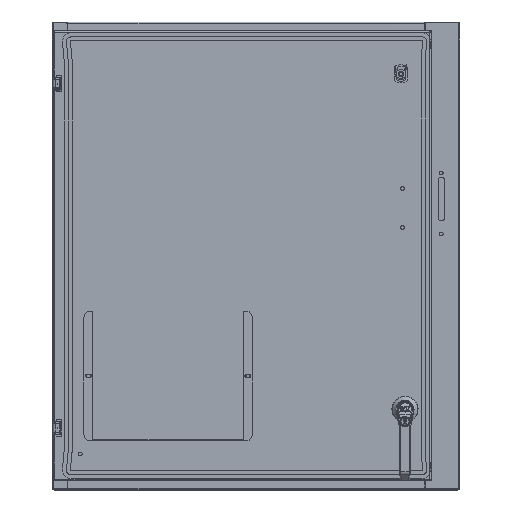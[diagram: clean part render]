
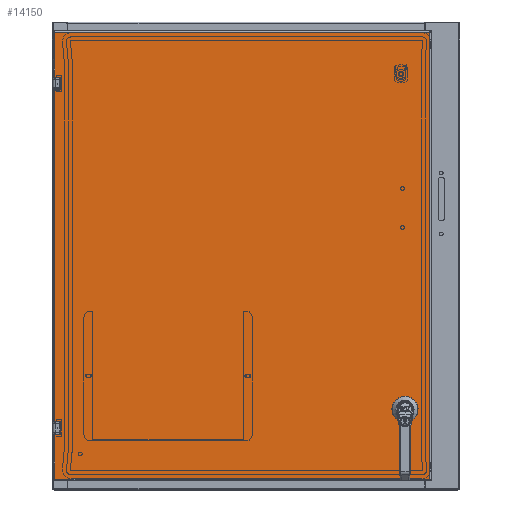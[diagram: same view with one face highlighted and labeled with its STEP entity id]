
A CAD part, top view. The second image highlights one B-rep face of the part: STEP entity #14150.
In plain terms, the highlighted planar face has unit normal (0, 0, 1).
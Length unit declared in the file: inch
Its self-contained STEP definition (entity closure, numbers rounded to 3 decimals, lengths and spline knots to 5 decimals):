
#10773=CARTESIAN_POINT('',(12.525,-12.915,0.));
#10774=DIRECTION('',(0.,0.,1.));
#10775=DIRECTION('',(-1.,0.,0.));
#10776=AXIS2_PLACEMENT_3D('',#10773,#10774,#10775);
#10781=CARTESIAN_POINT('',(12.525,-12.915,0.));
#10782=DIRECTION('',(0.,0.,1.));
#10783=DIRECTION('',(1.,0.,0.));
#10784=AXIS2_PLACEMENT_3D('',#10781,#10782,#10783);
#10789=DIRECTION('',(1.,0.,0.));
#10790=VECTOR('',#10789,0.39715);
#10791=CARTESIAN_POINT('',(12.32642,-11.429,0.));
#10792=LINE('',#10791,#10790);
#10796=CARTESIAN_POINT('',(12.525,-11.825,0.));
#10797=DIRECTION('',(0.,0.,1.));
#10798=DIRECTION('',(-0.448,0.894,0.));
#10799=AXIS2_PLACEMENT_3D('',#10796,#10797,#10798);
#10804=DIRECTION('',(0.,1.,0.));
#10805=VECTOR('',#10804,0.39715);
#10806=CARTESIAN_POINT('',(12.129,-12.02358,0.));
#10807=LINE('',#10806,#10805);
#10811=CARTESIAN_POINT('',(12.525,-11.825,0.));
#10812=DIRECTION('',(0.,0.,1.));
#10813=DIRECTION('',(-0.894,-0.448,0.));
#10814=AXIS2_PLACEMENT_3D('',#10811,#10812,#10813);
#10819=DIRECTION('',(-1.,0.,0.));
#10820=VECTOR('',#10819,0.39715);
#10821=CARTESIAN_POINT('',(12.72358,-12.221,0.));
#10822=LINE('',#10821,#10820);
#10826=CARTESIAN_POINT('',(12.525,-11.825,0.));
#10827=DIRECTION('',(0.,0.,1.));
#10828=DIRECTION('',(0.448,-0.894,0.));
#10829=AXIS2_PLACEMENT_3D('',#10826,#10827,#10828);
#10834=DIRECTION('',(0.,-1.,0.));
#10835=VECTOR('',#10834,0.39715);
#10836=CARTESIAN_POINT('',(12.921,-11.62642,0.));
#10837=LINE('',#10836,#10835);
#10841=CARTESIAN_POINT('',(12.525,-11.825,0.));
#10842=DIRECTION('',(0.,0.,1.));
#10843=DIRECTION('',(0.894,0.448,0.));
#10844=AXIS2_PLACEMENT_3D('',#10841,#10842,#10843);
#10849=DIRECTION('',(1.,0.,0.));
#10850=VECTOR('',#10849,0.3629);
#10851=CARTESIAN_POINT('',(-14.4205,-13.595,0.));
#10852=LINE('',#10851,#10850);
#10856=DIRECTION('',(0.,1.,0.));
#10857=VECTOR('',#10856,0.63);
#10858=CARTESIAN_POINT('',(-14.0276,-13.565,0.));
#10859=LINE('',#10858,#10857);
#10863=DIRECTION('',(1.,0.,0.));
#10864=VECTOR('',#10863,0.3629);
#10865=CARTESIAN_POINT('',(-14.4205,-12.905,0.));
#10866=LINE('',#10865,#10864);
#10870=DIRECTION('',(1.,0.,0.));
#10871=VECTOR('',#10870,0.3629);
#10872=CARTESIAN_POINT('',(-14.4205,12.905,0.));
#10873=LINE('',#10872,#10871);
#10877=DIRECTION('',(0.,1.,0.));
#10878=VECTOR('',#10877,0.63);
#10879=CARTESIAN_POINT('',(-14.0276,12.935,0.));
#10880=LINE('',#10879,#10878);
#10884=DIRECTION('',(1.,0.,0.));
#10885=VECTOR('',#10884,0.3629);
#10886=CARTESIAN_POINT('',(-14.4205,13.595,0.));
#10887=LINE('',#10886,#10885);
#11452=DIRECTION('',(0.,-1.,0.));
#11453=VECTOR('',#11452,34.416);
#11454=CARTESIAN_POINT('',(14.4205,17.208,0.));
#11455=LINE('',#11454,#11453);
#11524=DIRECTION('',(1.,0.,0.));
#11525=VECTOR('',#11524,28.841);
#11526=CARTESIAN_POINT('',(-14.4205,17.208,0.));
#11527=LINE('',#11526,#11525);
#11652=DIRECTION('',(0.,1.,0.));
#11653=VECTOR('',#11652,25.81);
#11654=CARTESIAN_POINT('',(-14.4205,-12.905,0.));
#11655=LINE('',#11654,#11653);
#11659=CARTESIAN_POINT('',(-14.4205,17.208,0.));
#11696=DIRECTION('',(0.,1.,0.));
#11697=VECTOR('',#11696,3.613);
#11698=CARTESIAN_POINT('',(-14.4205,13.595,0.));
#11699=LINE('',#11698,#11697);
#11770=DIRECTION('',(0.,1.,0.));
#11771=VECTOR('',#11770,3.613);
#11772=CARTESIAN_POINT('',(-14.4205,-17.208,0.));
#11773=LINE('',#11772,#11771);
#11791=CARTESIAN_POINT('',(-14.0576,-12.935,0.));
#11792=DIRECTION('',(0.,0.,-1.));
#11793=DIRECTION('',(0.,1.,0.));
#11794=AXIS2_PLACEMENT_3D('',#11791,#11792,#11793);
#11821=CARTESIAN_POINT('',(-14.0576,-13.565,0.));
#11822=DIRECTION('',(0.,0.,-1.));
#11823=DIRECTION('',(1.,0.,0.));
#11824=AXIS2_PLACEMENT_3D('',#11821,#11822,#11823);
#12163=DIRECTION('',(-1.,0.,0.));
#12164=VECTOR('',#12163,28.841);
#12165=CARTESIAN_POINT('',(14.4205,-17.208,0.));
#12166=LINE('',#12165,#12164);
#12416=CARTESIAN_POINT('',(-14.0576,12.935,0.));
#12417=DIRECTION('',(0.,0.,-1.));
#12418=DIRECTION('',(1.,0.,0.));
#12419=AXIS2_PLACEMENT_3D('',#12416,#12417,#12418);
#12446=CARTESIAN_POINT('',(-14.0576,13.565,0.));
#12447=DIRECTION('',(0.,0.,-1.));
#12448=DIRECTION('',(0.,1.,0.));
#12449=AXIS2_PLACEMENT_3D('',#12446,#12447,#12448);
#13665=CARTESIAN_POINT('',(14.4205,17.208,0.));
#13666=CARTESIAN_POINT('',(14.4205,-17.208,0.));
#13667=VERTEX_POINT('',#13665);
#13668=VERTEX_POINT('',#13666);
#13793=CARTESIAN_POINT('',(12.4,-12.915,0.));
#13794=CARTESIAN_POINT('',(12.65,-12.915,0.));
#13795=VERTEX_POINT('',#13793);
#13796=VERTEX_POINT('',#13794);
#13797=CARTESIAN_POINT('',(12.32642,-11.429,0.));
#13798=CARTESIAN_POINT('',(12.72358,-11.429,0.));
#13799=VERTEX_POINT('',#13797);
#13800=VERTEX_POINT('',#13798);
#13801=CARTESIAN_POINT('',(12.921,-11.62642,0.));
#13802=VERTEX_POINT('',#13801);
#13803=CARTESIAN_POINT('',(12.921,-12.02358,0.));
#13804=VERTEX_POINT('',#13803);
#13805=CARTESIAN_POINT('',(12.72358,-12.221,0.));
#13806=VERTEX_POINT('',#13805);
#13807=CARTESIAN_POINT('',(12.32642,-12.221,0.));
#13808=VERTEX_POINT('',#13807);
#13809=CARTESIAN_POINT('',(12.129,-12.02358,0.));
#13810=VERTEX_POINT('',#13809);
#13811=CARTESIAN_POINT('',(12.129,-11.62642,0.));
#13812=VERTEX_POINT('',#13811);
#13863=VERTEX_POINT('',#11659);
#13868=CARTESIAN_POINT('',(-14.4205,-17.208,0.));
#13870=VERTEX_POINT('',#13868);
#13991=CARTESIAN_POINT('',(-14.4205,13.595,0.));
#13993=VERTEX_POINT('',#13991);
#13995=CARTESIAN_POINT('',(-14.4205,12.905,0.));
#13997=VERTEX_POINT('',#13995);
#14007=CARTESIAN_POINT('',(-14.4205,-12.905,0.));
#14009=VERTEX_POINT('',#14007);
#14011=CARTESIAN_POINT('',(-14.4205,-13.595,0.));
#14013=VERTEX_POINT('',#14011);
#14023=CARTESIAN_POINT('',(-14.0576,13.595,0.));
#14025=VERTEX_POINT('',#14023);
#14027=CARTESIAN_POINT('',(-14.0276,13.565,0.));
#14029=VERTEX_POINT('',#14027);
#14031=CARTESIAN_POINT('',(-14.0276,12.935,0.));
#14033=VERTEX_POINT('',#14031);
#14035=CARTESIAN_POINT('',(-14.0576,12.905,0.));
#14037=VERTEX_POINT('',#14035);
#14055=CARTESIAN_POINT('',(-14.0576,-12.905,0.));
#14057=VERTEX_POINT('',#14055);
#14059=CARTESIAN_POINT('',(-14.0276,-12.935,0.));
#14061=VERTEX_POINT('',#14059);
#14063=CARTESIAN_POINT('',(-14.0276,-13.565,0.));
#14065=VERTEX_POINT('',#14063);
#14067=CARTESIAN_POINT('',(-14.0576,-13.595,0.));
#14069=VERTEX_POINT('',#14067);
#14087=CARTESIAN_POINT('',(0.,0.,0.));
#14088=DIRECTION('',(0.,0.,-1.));
#14089=DIRECTION('',(1.,0.,0.));
#14090=AXIS2_PLACEMENT_3D('',#14087,#14088,#14089);
#14091=PLANE('',#14090);
#14093=ORIENTED_EDGE('',*,*,#14092,.T.);
#14095=ORIENTED_EDGE('',*,*,#14094,.T.);
#14097=ORIENTED_EDGE('',*,*,#14096,.T.);
#14099=ORIENTED_EDGE('',*,*,#14098,.F.);
#14101=ORIENTED_EDGE('',*,*,#14100,.T.);
#14103=ORIENTED_EDGE('',*,*,#14102,.F.);
#14105=ORIENTED_EDGE('',*,*,#14104,.F.);
#14107=ORIENTED_EDGE('',*,*,#14106,.T.);
#14109=ORIENTED_EDGE('',*,*,#14108,.T.);
#14111=ORIENTED_EDGE('',*,*,#14110,.F.);
#14113=ORIENTED_EDGE('',*,*,#14112,.T.);
#14115=ORIENTED_EDGE('',*,*,#14114,.F.);
#14117=ORIENTED_EDGE('',*,*,#14116,.F.);
#14119=ORIENTED_EDGE('',*,*,#14118,.T.);
#14121=ORIENTED_EDGE('',*,*,#14120,.T.);
#14123=ORIENTED_EDGE('',*,*,#14122,.T.);
#14124=EDGE_LOOP('',(#14093,#14095,#14097,#14099,#14101,#14103,#14105,#14107,
#14109,#14111,#14113,#14115,#14117,#14119,#14121,#14123));
#14125=FACE_OUTER_BOUND('',#14124,.F.);
#14127=ORIENTED_EDGE('',*,*,#14126,.F.);
#14129=ORIENTED_EDGE('',*,*,#14128,.T.);
#14131=ORIENTED_EDGE('',*,*,#14130,.F.);
#14133=ORIENTED_EDGE('',*,*,#14132,.T.);
#14135=ORIENTED_EDGE('',*,*,#14134,.F.);
#14137=ORIENTED_EDGE('',*,*,#14136,.T.);
#14139=ORIENTED_EDGE('',*,*,#14138,.F.);
#14141=ORIENTED_EDGE('',*,*,#14140,.T.);
#14142=EDGE_LOOP('',(#14127,#14129,#14131,#14133,#14135,#14137,#14139,#14141));
#14143=FACE_BOUND('',#14142,.F.);
#14145=ORIENTED_EDGE('',*,*,#14144,.T.);
#14147=ORIENTED_EDGE('',*,*,#14146,.T.);
#14148=EDGE_LOOP('',(#14145,#14147));
#14149=FACE_BOUND('',#14148,.F.);
#10777=CIRCLE('',#10776,0.125);
#10785=CIRCLE('',#10784,0.125);
#10800=CIRCLE('',#10799,0.443);
#10815=CIRCLE('',#10814,0.443);
#10830=CIRCLE('',#10829,0.443);
#10845=CIRCLE('',#10844,0.443);
#11795=CIRCLE('',#11794,0.03);
#11825=CIRCLE('',#11824,0.03);
#12420=CIRCLE('',#12419,0.03);
#12450=CIRCLE('',#12449,0.03);
#14092=EDGE_CURVE('',#13668,#13870,#12166,.T.);
#14094=EDGE_CURVE('',#13870,#14013,#11773,.T.);
#14096=EDGE_CURVE('',#14013,#14069,#10852,.T.);
#14098=EDGE_CURVE('',#14065,#14069,#11825,.T.);
#14100=EDGE_CURVE('',#14065,#14061,#10859,.T.);
#14102=EDGE_CURVE('',#14057,#14061,#11795,.T.);
#14104=EDGE_CURVE('',#14009,#14057,#10866,.T.);
#14106=EDGE_CURVE('',#14009,#13997,#11655,.T.);
#14108=EDGE_CURVE('',#13997,#14037,#10873,.T.);
#14110=EDGE_CURVE('',#14033,#14037,#12420,.T.);
#14112=EDGE_CURVE('',#14033,#14029,#10880,.T.);
#14114=EDGE_CURVE('',#14025,#14029,#12450,.T.);
#14116=EDGE_CURVE('',#13993,#14025,#10887,.T.);
#14118=EDGE_CURVE('',#13993,#13863,#11699,.T.);
#14120=EDGE_CURVE('',#13863,#13667,#11527,.T.);
#14122=EDGE_CURVE('',#13667,#13668,#11455,.T.);
#14126=EDGE_CURVE('',#13799,#13800,#10792,.T.);
#14128=EDGE_CURVE('',#13799,#13812,#10800,.T.);
#14130=EDGE_CURVE('',#13810,#13812,#10807,.T.);
#14132=EDGE_CURVE('',#13810,#13808,#10815,.T.);
#14134=EDGE_CURVE('',#13806,#13808,#10822,.T.);
#14136=EDGE_CURVE('',#13806,#13804,#10830,.T.);
#14138=EDGE_CURVE('',#13802,#13804,#10837,.T.);
#14140=EDGE_CURVE('',#13802,#13800,#10845,.T.);
#14144=EDGE_CURVE('',#13795,#13796,#10777,.T.);
#14146=EDGE_CURVE('',#13796,#13795,#10785,.T.);
#14150=ADVANCED_FACE('',(#14125,#14143,#14149),#14091,.F.);
